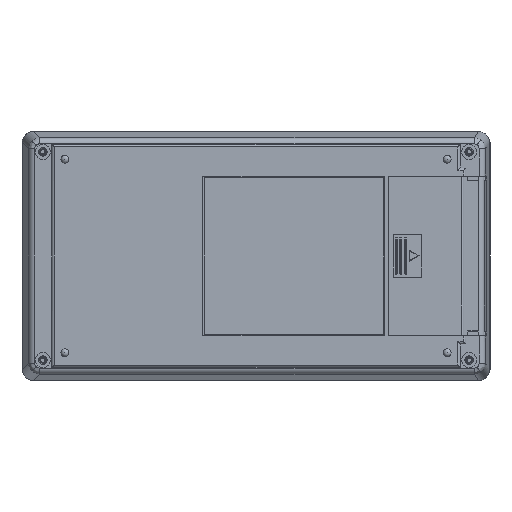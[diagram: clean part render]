
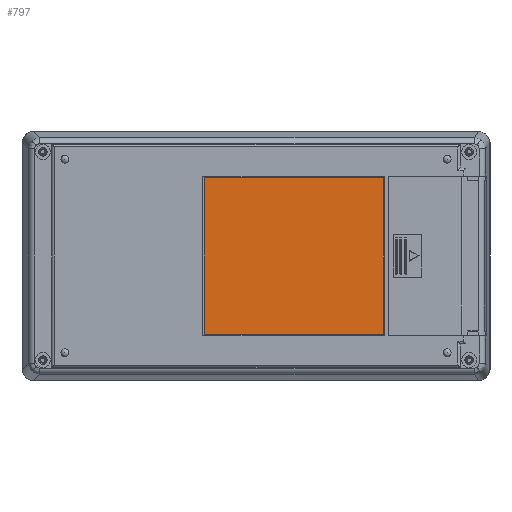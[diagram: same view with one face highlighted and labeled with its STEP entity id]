
A CAD part, front view. The second image highlights one B-rep face of the part: STEP entity #797.
In plain terms, the highlighted planar face has unit normal (0, -1, 0).
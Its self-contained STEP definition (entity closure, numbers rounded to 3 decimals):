
#117 = ORIENTED_EDGE ( 'NONE', *, *, #1898, .T. ) ;
#526 = FACE_OUTER_BOUND ( 'NONE', #7493, .T. ) ;
#797 = ADVANCED_FACE ( 'NONE', ( #526 ), #1861, .T. ) ;
#1776 = VECTOR ( 'NONE', #11983, 1000. ) ;
#1861 = PLANE ( 'NONE',  #23012 ) ;
#1898 = EDGE_CURVE ( 'NONE', #19483, #3236, #4278, .T. ) ;
#3236 = VERTEX_POINT ( 'NONE', #17865 ) ;
#3627 = VECTOR ( 'NONE', #13692, 1000. ) ;
#3974 = DIRECTION ( 'NONE',  ( 0., 0., -1. ) ) ;
#4278 = LINE ( 'NONE', #9493, #3627 ) ;
#5085 = CARTESIAN_POINT ( 'NONE',  ( 52., -18.3, 32. ) ) ;
#7230 = LINE ( 'NONE', #9503, #12792 ) ;
#7493 = EDGE_LOOP ( 'NONE', ( #18498, #117, #10840, #14907 ) ) ;
#9393 = DIRECTION ( 'NONE',  ( -1., 0., 0. ) ) ;
#9493 = CARTESIAN_POINT ( 'NONE',  ( 52., -18.3, 32. ) ) ;
#9503 = CARTESIAN_POINT ( 'NONE',  ( 52., -18.3, -32. ) ) ;
#9880 = CARTESIAN_POINT ( 'NONE',  ( -21.2, -18.3, 32. ) ) ;
#10606 = CARTESIAN_POINT ( 'NONE',  ( -21.2, -18.3, -32. ) ) ;
#10840 = ORIENTED_EDGE ( 'NONE', *, *, #23477, .T. ) ;
#11983 = DIRECTION ( 'NONE',  ( 0., 0., -1. ) ) ;
#12449 = LINE ( 'NONE', #5085, #22871 ) ;
#12792 = VECTOR ( 'NONE', #19918, 1000. ) ;
#13692 = DIRECTION ( 'NONE',  ( 0., 0., 1. ) ) ;
#14093 = VERTEX_POINT ( 'NONE', #10606 ) ;
#14907 = ORIENTED_EDGE ( 'NONE', *, *, #26249, .T. ) ;
#16528 = DIRECTION ( 'NONE',  ( 0., -1., 0. ) ) ;
#16691 = VERTEX_POINT ( 'NONE', #26051 ) ;
#17865 = CARTESIAN_POINT ( 'NONE',  ( 52., -18.3, 32. ) ) ;
#18492 = LINE ( 'NONE', #9880, #1776 ) ;
#18498 = ORIENTED_EDGE ( 'NONE', *, *, #22059, .T. ) ;
#18912 = CARTESIAN_POINT ( 'NONE',  ( 52., -18.3, -32. ) ) ;
#19483 = VERTEX_POINT ( 'NONE', #18912 ) ;
#19918 = DIRECTION ( 'NONE',  ( 1., 0., 0. ) ) ;
#22059 = EDGE_CURVE ( 'NONE', #14093, #19483, #7230, .T. ) ;
#22871 = VECTOR ( 'NONE', #9393, 1000. ) ;
#23012 = AXIS2_PLACEMENT_3D ( 'NONE', #24795, #16528, #3974 ) ;
#23477 = EDGE_CURVE ( 'NONE', #3236, #16691, #12449, .T. ) ;
#24795 = CARTESIAN_POINT ( 'NONE',  ( -95.3, -18.3, -50.7 ) ) ;
#26051 = CARTESIAN_POINT ( 'NONE',  ( -21.2, -18.3, 32. ) ) ;
#26249 = EDGE_CURVE ( 'NONE', #16691, #14093, #18492, .T. ) ;
